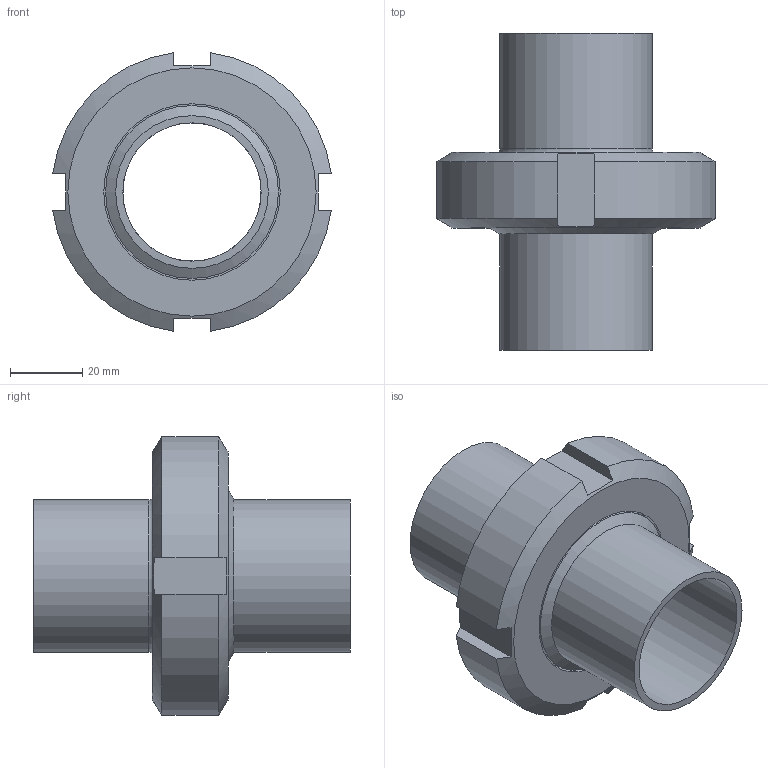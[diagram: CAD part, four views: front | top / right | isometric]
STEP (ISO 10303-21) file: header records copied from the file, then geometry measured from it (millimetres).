
FILE_DESCRIPTION(/* description */ ('Aseptik_Rohrverbindung_DIN 11864-1-A_42,4x2_L88'),/* implementation_level */ '2;1');
FILE_NAME(/* name */ 'L:\Normteile\N0024 - Rohrverbindungen\N0024_002 - DIN11864\N0024_002_001 - geschraubt\N0024_002_001\Step Marketing\DIN11864-1-A_42,4x2_L88.stp',/* time_stamp */ '2021-08-31T10:25:01+02:00',/* author */ ('Csasse'),/* organization */ ('Dockweiler AG'),/* preprocessor_version */ 'ST-DEVELOPER v18',/* originating_system */ 'Autodesk Inventor 2020',/* authorisation */ '');
FILE_SCHEMA (('AUTOMOTIVE_DESIGN { 1 0 10303 214 3 1 1 }'));
Length unit declared in the file: millimetre
Products named in the file (5): N0024_002_001_44; N0003_007_001_16; N0003_007_002_16; N0005_005_002_001_17; N0009_009_16
Assembly tree (4 placements, depth 2):
  N0024_002_001_44
    N0003_007_001_16
    N0003_007_002_16
    N0005_005_002_001_17
    N0009_009_16
Bounding box: 77.36 x 88 x 77.36 mm (x, y, z)
Volume: 89596.9 mm3; surface area: 48411.7 mm2
Topology: 4 solids, 4 shells, 60 faces, 176 edges, 128 vertices
Faces by surface type: plane 24, cylinder 14, torus 12, cone 10
Full cylindrical faces by diameter (mm): 38.4 x2, 42.4 x2, 48 x1, 49 x1, 54.9 x1, 55 x1, 60.767 x1, 65.423 x1
Entity records: 2344 total; most frequent: CARTESIAN_POINT 425, DIRECTION 402, ORIENTED_EDGE 352, AXIS2_PLACEMENT_3D 183, EDGE_CURVE 176, VERTEX_POINT 128, CIRCLE 114, EDGE_LOOP 72
